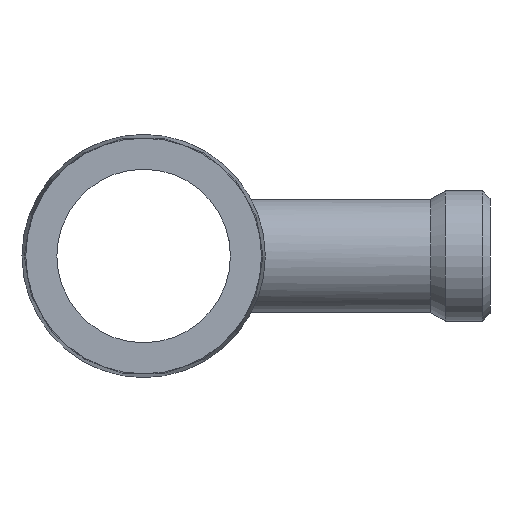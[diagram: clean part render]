
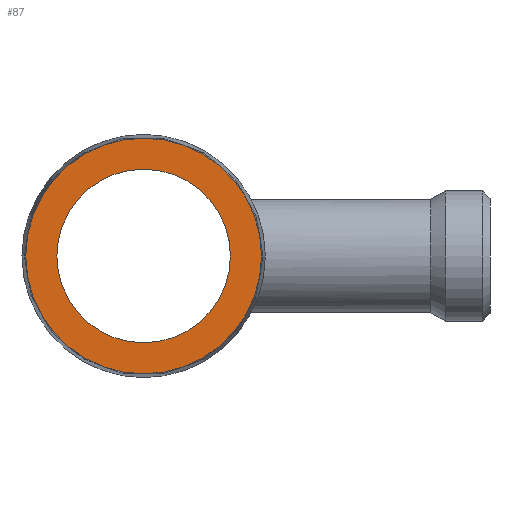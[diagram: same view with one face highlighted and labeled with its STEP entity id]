
A CAD part, left-side view. The second image highlights one B-rep face of the part: STEP entity #87.
In plain terms, the highlighted planar face has unit normal (-1, 0, 0).
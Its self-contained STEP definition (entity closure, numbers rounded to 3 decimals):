
#87 = ADVANCED_FACE( '', ( #131, #132 ), #133, .F. );
#131 = FACE_OUTER_BOUND( '', #184, .T. );
#132 = FACE_BOUND( '', #185, .T. );
#133 = PLANE( '', #186 );
#184 = EDGE_LOOP( '', ( #261 ) );
#185 = EDGE_LOOP( '', ( #262 ) );
#186 = AXIS2_PLACEMENT_3D( '', #263, #264, #265 );
#261 = ORIENTED_EDGE( '', *, *, #300, .F. );
#262 = ORIENTED_EDGE( '', *, *, #294, .T. );
#263 = CARTESIAN_POINT( '', ( -120., 0., 0. ) );
#264 = DIRECTION( '', ( 1., 0., 0. ) );
#265 = DIRECTION( '', ( 0., 1., 0. ) );
#294 = EDGE_CURVE( '', #320, #320, #321, .T. );
#300 = EDGE_CURVE( '', #332, #332, #333, .T. );
#320 = VERTEX_POINT( '', #448 );
#321 = CIRCLE( '', #449, 12. );
#332 = VERTEX_POINT( '', #525 );
#333 = CIRCLE( '', #526, 16.3 );
#448 = CARTESIAN_POINT( '', ( -120., 0., -12. ) );
#449 = AXIS2_PLACEMENT_3D( '', #554, #555, #556 );
#525 = CARTESIAN_POINT( '', ( -120., 16.3, 0. ) );
#526 = AXIS2_PLACEMENT_3D( '', #569, #570, #571 );
#554 = CARTESIAN_POINT( '', ( -120., 0., 0. ) );
#555 = DIRECTION( '', ( 1., 0., 0. ) );
#556 = DIRECTION( '', ( 0., 0., -1. ) );
#569 = CARTESIAN_POINT( '', ( -120., 0., 0. ) );
#570 = DIRECTION( '', ( 1., 0., 0. ) );
#571 = DIRECTION( '', ( 0., 1., 0. ) );
